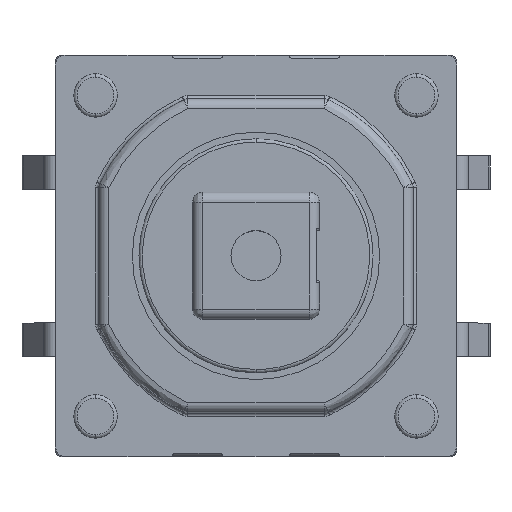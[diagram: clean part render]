
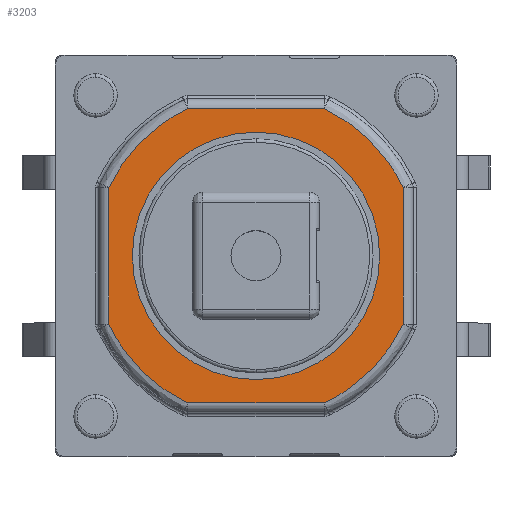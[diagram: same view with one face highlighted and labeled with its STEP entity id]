
A CAD part, top view. The second image highlights one B-rep face of the part: STEP entity #3203.
In plain terms, the highlighted planar face has unit normal (0, 0, 1).
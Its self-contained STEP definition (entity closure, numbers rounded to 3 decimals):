
#1005 = CARTESIAN_POINT ( 'NONE',  ( -3.7, 0., 3.245 ) ) ;
#1017 = DIRECTION ( 'NONE',  ( 1., 0., 0. ) ) ;
#1018 = DIRECTION ( 'NONE',  ( 0., 0., -1. ) ) ;
#1019 = AXIS2_PLACEMENT_3D ( 'NONE', #1060, #1018, #1017 ) ;
#1057 = CIRCLE ( 'NONE', #1019, 3.7 ) ;
#1060 = CARTESIAN_POINT ( 'NONE',  ( 0., 0., 3.245 ) ) ;
#1091 = CARTESIAN_POINT ( 'NONE',  ( 3.7, 0., 3.245 ) ) ;
#3192 = EDGE_LOOP ( 'NONE', ( #3197, #3198 ) ) ;
#3197 = ORIENTED_EDGE ( 'NONE', *, *, #13952, .T. ) ;
#3198 = ORIENTED_EDGE ( 'NONE', *, *, #3229, .T. ) ;
#3200 = VERTEX_POINT ( 'NONE', #9903 ) ;
#3201 = VERTEX_POINT ( 'NONE', #9988 ) ;
#3202 = EDGE_LOOP ( 'NONE', ( #3690, #3210, #3204, #3396, #3209, #3212, #3404, #3403 ) ) ;
#3203 = ADVANCED_FACE ( 'NONE', ( #10027, #9994 ), #9912, .T. ) ;
#3204 = ORIENTED_EDGE ( 'NONE', *, *, #3211, .F. ) ;
#3205 = VERTEX_POINT ( 'NONE', #10099 ) ;
#3206 = EDGE_CURVE ( 'NONE', #3200, #3201, #10086, .T. ) ;
#3207 = VERTEX_POINT ( 'NONE', #10130 ) ;
#3208 = EDGE_CURVE ( 'NONE', #3205, #3200, #10063, .T. ) ;
#3209 = ORIENTED_EDGE ( 'NONE', *, *, #3397, .F. ) ;
#3210 = ORIENTED_EDGE ( 'NONE', *, *, #3208, .F. ) ;
#3211 = EDGE_CURVE ( 'NONE', #3207, #3205, #10049, .T. ) ;
#3212 = ORIENTED_EDGE ( 'NONE', *, *, #3399, .F. ) ;
#3213 = EDGE_CURVE ( 'NONE', #3214, #3207, #10092, .T. ) ;
#3214 = VERTEX_POINT ( 'NONE', #10050 ) ;
#3229 = EDGE_CURVE ( 'NONE', #13923, #13946, #10391, .T. ) ;
#3394 = VERTEX_POINT ( 'NONE', #11030 ) ;
#3395 = VERTEX_POINT ( 'NONE', #11101 ) ;
#3396 = ORIENTED_EDGE ( 'NONE', *, *, #3213, .F. ) ;
#3397 = EDGE_CURVE ( 'NONE', #3398, #3214, #11097, .T. ) ;
#3398 = VERTEX_POINT ( 'NONE', #11099 ) ;
#3399 = EDGE_CURVE ( 'NONE', #3395, #3398, #11098, .T. ) ;
#3402 = EDGE_CURVE ( 'NONE', #3394, #3395, #8423, .T. ) ;
#3403 = ORIENTED_EDGE ( 'NONE', *, *, #3405, .F. ) ;
#3404 = ORIENTED_EDGE ( 'NONE', *, *, #3402, .F. ) ;
#3405 = EDGE_CURVE ( 'NONE', #3201, #3394, #8421, .T. ) ;
#3690 = ORIENTED_EDGE ( 'NONE', *, *, #3206, .F. ) ;
#8298 = CARTESIAN_POINT ( 'NONE',  ( -4.4, 2.04, 3.245 ) ) ;
#8421 = LINE ( 'NONE', #8440, #8445 ) ;
#8423 =( BOUNDED_CURVE ( )  B_SPLINE_CURVE ( 3, ( #8298, #8443, #8442, #8441 ),
 .UNSPECIFIED., .F., .F. ) 
 B_SPLINE_CURVE_WITH_KNOTS ( ( 4, 4 ),
 ( 0., 1. ),
 .UNSPECIFIED. ) 
 CURVE ( )  GEOMETRIC_REPRESENTATION_ITEM ( )  RATIONAL_B_SPLINE_CURVE ( ( 1., 0.959, 0.959, 1. ) ) 
 REPRESENTATION_ITEM ( '' )  );
#8440 = CARTESIAN_POINT ( 'NONE',  ( -4.4, 4.4, 3.245 ) ) ;
#8441 = CARTESIAN_POINT ( 'NONE',  ( -2.04, 4.4, 3.245 ) ) ;
#8442 = CARTESIAN_POINT ( 'NONE',  ( -3.092, 3.912, 3.245 ) ) ;
#8443 = CARTESIAN_POINT ( 'NONE',  ( -3.912, 3.092, 3.245 ) ) ;
#8444 = DIRECTION ( 'NONE',  ( 0., 1., 0. ) ) ;
#8445 = VECTOR ( 'NONE', #8444, 1000. ) ;
#9903 = CARTESIAN_POINT ( 'NONE',  ( -2.04, -4.4, 3.245 ) ) ;
#9911 = AXIS2_PLACEMENT_3D ( 'NONE', #10096, #10095, #10093 ) ;
#9912 = PLANE ( 'NONE',  #9911 ) ;
#9988 = CARTESIAN_POINT ( 'NONE',  ( -4.4, -2.04, 3.245 ) ) ;
#9994 = FACE_OUTER_BOUND ( 'NONE', #3202, .T. ) ;
#10027 = FACE_BOUND ( 'NONE', #3192, .T. ) ;
#10043 = CARTESIAN_POINT ( 'NONE',  ( 2.04, -4.4, 3.245 ) ) ;
#10044 = CARTESIAN_POINT ( 'NONE',  ( 3.092, -3.912, 3.245 ) ) ;
#10045 = CARTESIAN_POINT ( 'NONE',  ( 3.912, -3.092, 3.245 ) ) ;
#10047 = CARTESIAN_POINT ( 'NONE',  ( 4.4, -2.04, 3.245 ) ) ;
#10049 =( BOUNDED_CURVE ( )  B_SPLINE_CURVE ( 3, ( #10047, #10045, #10044, #10043 ),
 .UNSPECIFIED., .F., .T. ) 
 B_SPLINE_CURVE_WITH_KNOTS ( ( 4, 4 ),
 ( 0., 1. ),
 .UNSPECIFIED. ) 
 CURVE ( )  GEOMETRIC_REPRESENTATION_ITEM ( )  RATIONAL_B_SPLINE_CURVE ( ( 1., 0.959, 0.959, 1. ) ) 
 REPRESENTATION_ITEM ( '' )  );
#10050 = CARTESIAN_POINT ( 'NONE',  ( 4.4, 2.04, 3.245 ) ) ;
#10059 = DIRECTION ( 'NONE',  ( -1., 0., 0. ) ) ;
#10060 = VECTOR ( 'NONE', #10059, 1000. ) ;
#10062 = CARTESIAN_POINT ( 'NONE',  ( 2.04, -4.4, 3.245 ) ) ;
#10063 = LINE ( 'NONE', #10062, #10060 ) ;
#10072 = CARTESIAN_POINT ( 'NONE',  ( -4.4, -2.04, 3.245 ) ) ;
#10073 = CARTESIAN_POINT ( 'NONE',  ( -3.912, -3.092, 3.245 ) ) ;
#10074 = CARTESIAN_POINT ( 'NONE',  ( -3.092, -3.912, 3.245 ) ) ;
#10075 = CARTESIAN_POINT ( 'NONE',  ( -2.04, -4.4, 3.245 ) ) ;
#10086 =( BOUNDED_CURVE ( )  B_SPLINE_CURVE ( 3, ( #10075, #10074, #10073, #10072 ),
 .UNSPECIFIED., .F., .T. ) 
 B_SPLINE_CURVE_WITH_KNOTS ( ( 4, 4 ),
 ( 0., 1. ),
 .UNSPECIFIED. ) 
 CURVE ( )  GEOMETRIC_REPRESENTATION_ITEM ( )  RATIONAL_B_SPLINE_CURVE ( ( 1., 0.959, 0.959, 1. ) ) 
 REPRESENTATION_ITEM ( '' )  );
#10091 = CARTESIAN_POINT ( 'NONE',  ( 4.4, 4.4, 3.245 ) ) ;
#10092 = LINE ( 'NONE', #10091, #10299 ) ;
#10093 = DIRECTION ( 'NONE',  ( 1., 0., 0. ) ) ;
#10095 = DIRECTION ( 'NONE',  ( 0., 0., 1. ) ) ;
#10096 = CARTESIAN_POINT ( 'NONE',  ( 2.04, 4.4, 3.245 ) ) ;
#10099 = CARTESIAN_POINT ( 'NONE',  ( 2.04, -4.4, 3.245 ) ) ;
#10130 = CARTESIAN_POINT ( 'NONE',  ( 4.4, -2.04, 3.245 ) ) ;
#10298 = DIRECTION ( 'NONE',  ( 0., -1., 0. ) ) ;
#10299 = VECTOR ( 'NONE', #10298, 1000. ) ;
#10342 = DIRECTION ( 'NONE',  ( 1., 0., 0. ) ) ;
#10387 = DIRECTION ( 'NONE',  ( 0., 0., -1. ) ) ;
#10388 = CARTESIAN_POINT ( 'NONE',  ( 0., 0., 3.245 ) ) ;
#10390 = AXIS2_PLACEMENT_3D ( 'NONE', #10388, #10387, #10342 ) ;
#10391 = CIRCLE ( 'NONE', #10390, 3.7 ) ;
#11030 = CARTESIAN_POINT ( 'NONE',  ( -4.4, 2.04, 3.245 ) ) ;
#11090 = DIRECTION ( 'NONE',  ( 1., 0., 0. ) ) ;
#11091 = VECTOR ( 'NONE', #11090, 1000. ) ;
#11092 = CARTESIAN_POINT ( 'NONE',  ( 2.04, 4.4, 3.245 ) ) ;
#11093 = CARTESIAN_POINT ( 'NONE',  ( 4.4, 2.04, 3.245 ) ) ;
#11094 = CARTESIAN_POINT ( 'NONE',  ( 3.912, 3.092, 3.245 ) ) ;
#11095 = CARTESIAN_POINT ( 'NONE',  ( 3.092, 3.912, 3.245 ) ) ;
#11096 = CARTESIAN_POINT ( 'NONE',  ( 2.04, 4.4, 3.245 ) ) ;
#11097 =( BOUNDED_CURVE ( )  B_SPLINE_CURVE ( 3, ( #11096, #11095, #11094, #11093 ),
 .UNSPECIFIED., .F., .T. ) 
 B_SPLINE_CURVE_WITH_KNOTS ( ( 4, 4 ),
 ( 0., 1. ),
 .UNSPECIFIED. ) 
 CURVE ( )  GEOMETRIC_REPRESENTATION_ITEM ( )  RATIONAL_B_SPLINE_CURVE ( ( 1., 0.959, 0.959, 1. ) ) 
 REPRESENTATION_ITEM ( '' )  );
#11098 = LINE ( 'NONE', #11092, #11091 ) ;
#11099 = CARTESIAN_POINT ( 'NONE',  ( 2.04, 4.4, 3.245 ) ) ;
#11101 = CARTESIAN_POINT ( 'NONE',  ( -2.04, 4.4, 3.245 ) ) ;
#13923 = VERTEX_POINT ( 'NONE', #1005 ) ;
#13946 = VERTEX_POINT ( 'NONE', #1091 ) ;
#13952 = EDGE_CURVE ( 'NONE', #13946, #13923, #1057, .T. ) ;
